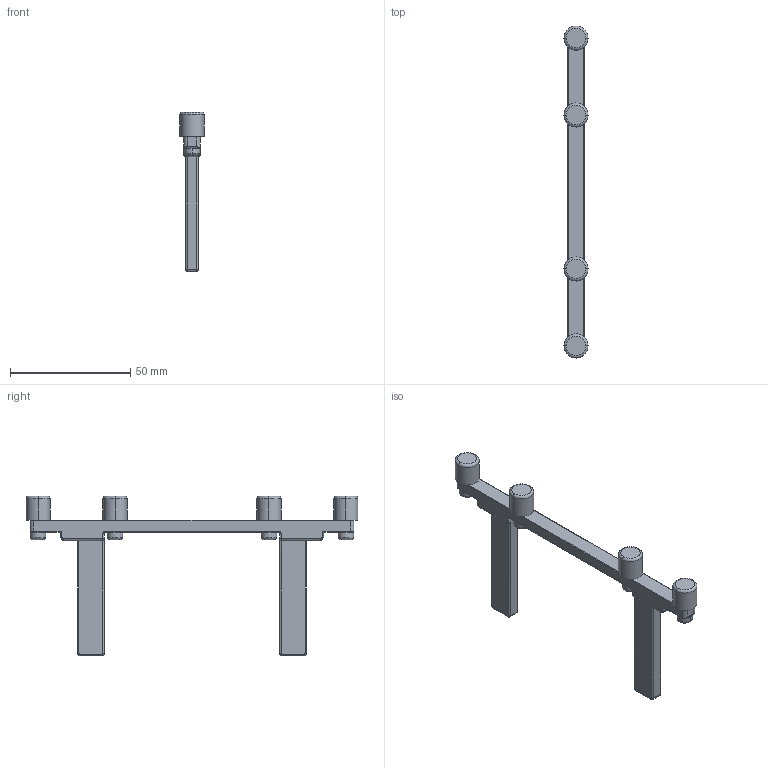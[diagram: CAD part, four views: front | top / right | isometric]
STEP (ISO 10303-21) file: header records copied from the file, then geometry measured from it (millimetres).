
FILE_DESCRIPTION (( 'STEP AP203' ), '1' );
FILE_NAME ('TB03016.STEP', '2021-03-16T02:00:57', ( 'Users' ), ( 'Microsoft' ), 'SwSTEP 2.0', 'SolidWorks 2018', '' );
FILE_SCHEMA (( 'CONFIG_CONTROL_DESIGN' ));
Length unit declared in the file: millimetre
Products named in the file (1): TB03016
Bounding box: 10 x 138 x 66.3 mm (x, y, z)
Volume: 14168 mm3; surface area: 8159.8 mm2
Topology: 1 solids, 1 shells, 370 faces, 942 edges, 572 vertices
Faces by surface type: plane 172, cylinder 80, torus 72, bspline 30, cone 8, sphere 8
Entity records: 12029 total; most frequent: CARTESIAN_POINT 3629, ORIENTED_EDGE 1872, DIRECTION 1628, EDGE_CURVE 936, AXIS2_PLACEMENT_3D 655, VERTEX_POINT 572, EDGE_LOOP 374, FACE_OUTER_BOUND 370
